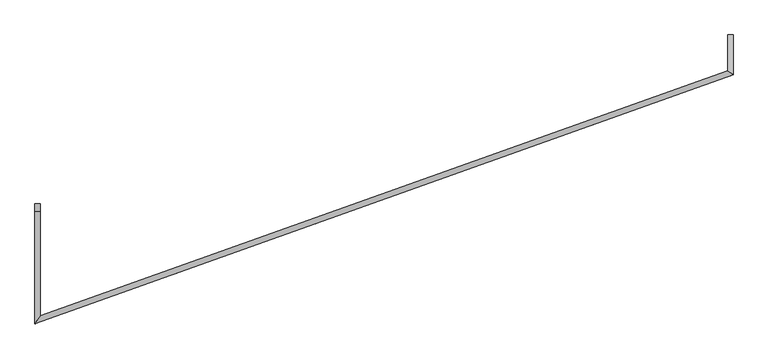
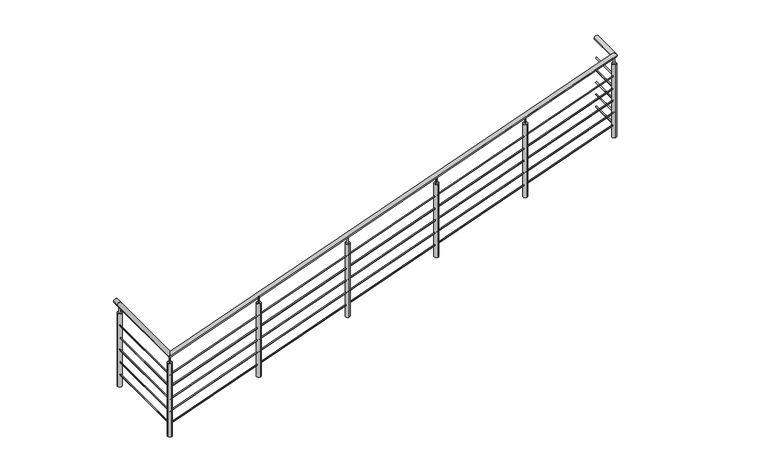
"""IFC4 building model written with IfcOpenShell, lengths in millimetres: railing geometry, Barandal general."""

from ifc_helpers import new_model, si_unit, point, frame, frame_2d, origin, place, context, project, spatial, circle_curve, ellipse_curve, trimmed, segment, composite_curve, outline, extrude, source, transform, mapped, element, save
from ifc_brep_helpers import plane_surface, cylinder_surface, advanced_brep


def railing_adf64244(model_context):
    return source(origin(), model_context, "Body", "SolidModel", [
        advanced_brep(
        [(42883.0275078, 24829.0112971, 13000.0), (42832.2275078, 24829.0112971, 13000.0), (42883.0275078, 23850.0761645, 13000.0), (42832.2275078, 23778.0442839, 13000.0), (49344.1059119, 26152.5044571, 13000.0), (49394.9059119, 26116.6780983, 13000.0), (49344.1059119, 26491.6980314, 13000.0), (49394.9059119, 26491.6980314, 13000.0)],
        [
            (0, 1, circle_curve(frame((42857.6275078, 24829.0112971, 13000.0), z_axis=(0.0, 1.0, 0.0), x_axis=(-1.0, 0.0, 0.0)), 25.4)),
            (1, 0, circle_curve(frame((42857.6275078, 24829.0112971, 13000.0), z_axis=(0.0, 1.0, 0.0), x_axis=(-1.0, 0.0, 0.0)), 25.4)),
            (0, 2),
            (2, 3, ellipse_curve(frame((42857.6275078, 23814.0602242, 13000.0), z_axis=(-0.8172138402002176, 0.5763345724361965, 0.0), x_axis=(0.5763345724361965, 0.8172138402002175, 0.0)), 44.071623, 25.4)),
            (3, 1),
            (3, 2, ellipse_curve(frame((42857.6275078, 23814.0602242, 13000.0), z_axis=(-0.8172138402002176, 0.5763345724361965, 0.0), x_axis=(0.5763345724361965, 0.8172138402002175, 0.0)), 44.071623, 25.4)),
            (2, 4),
            (4, 5, ellipse_curve(frame((49369.5059119, 26134.5912777, 13000.0), z_axis=(-0.5763345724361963, -0.8172138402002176, 0.0), x_axis=(-0.8172138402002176, 0.5763345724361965, 0.0)), 31.0812161, 25.4)),
            (5, 3),
            (5, 4, ellipse_curve(frame((49369.5059119, 26134.5912777, 13000.0), z_axis=(-0.5763345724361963, -0.8172138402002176, 0.0), x_axis=(-0.8172138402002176, 0.5763345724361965, 0.0)), 31.0812161, 25.4)),
            (6, 7, circle_curve(frame((49369.5059119, 26491.6980314, 13000.0), z_axis=(0.0, 1.0, 0.0), x_axis=(1.0, 0.0, 0.0)), 25.4)),
            (7, 6, circle_curve(frame((49369.5059119, 26491.6980314, 13000.0), z_axis=(0.0, 1.0, 0.0), x_axis=(1.0, 0.0, 0.0)), 25.4)),
            (4, 6),
            (7, 5),
        ],
        [
            plane_surface(frame((42857.6275078, 24829.0112971, 13000.0), z_axis=(0.0, 1.0, 0.0), x_axis=(0.0, 0.0, -1.0))),
            cylinder_surface(frame((42857.6275078, 24829.0112971, 13000.0), z_axis=(0.0, 1.0, 0.0), x_axis=(-1.0, 0.0, 0.0)), 25.4),
            cylinder_surface(frame((42857.6275078, 23814.0602242, 13000.0), z_axis=(-0.941977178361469, -0.3356769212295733, 0.0), x_axis=(0.3356769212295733, -0.941977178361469, 0.0)), 25.4),
            plane_surface(frame((49369.5059119, 26491.6980314, 13000.0), z_axis=(0.0, 1.0, 0.0), x_axis=(0.0, 0.0, 1.0))),
            cylinder_surface(frame((49369.5059119, 26134.5912777, 13000.0), z_axis=(0.0, -1.0, 0.0), x_axis=(1.0, 0.0, 0.0)), 25.4),
        ],
        [
            (0, [[1, 2]]),
            (1, [[-1, 3, 4, 5]]),
            (1, [[-2, -5, 6, -3]]),
            (2, [[-4, 7, 8, 9]]),
            (2, [[-6, -9, 10, -7]]),
            (3, [[11, 12]]),
            (4, [[-8, 13, -12, 14]]),
            (4, [[-10, -14, -11, -13]]),
        ],
    ),
        advanced_brep(
        [(42863.9775078, 24829.0112971, 12750.0), (42851.2775078, 24829.0112971, 12750.0), (42863.9775078, 23823.0642093, 12750.0), (42851.2775078, 23805.0562391, 12750.0), (49363.1559119, 26139.0695726, 12750.0), (49375.8559119, 26130.1129829, 12750.0), (49363.1559119, 26491.6980314, 12750.0), (49375.8559119, 26491.6980314, 12750.0)],
        [
            (0, 1, circle_curve(frame((42857.6275078, 24829.0112971, 12750.0), z_axis=(0.0, 1.0, 0.0), x_axis=(-1.0, 0.0, 0.0)), 6.35)),
            (1, 0, circle_curve(frame((42857.6275078, 24829.0112971, 12750.0), z_axis=(0.0, 1.0, 0.0), x_axis=(-1.0, 0.0, 0.0)), 6.35)),
            (0, 2),
            (2, 3, ellipse_curve(frame((42857.6275078, 23814.0602242, 12750.0), z_axis=(-0.8172138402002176, 0.5763345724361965, 0.0), x_axis=(0.5763345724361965, 0.8172138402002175, 0.0)), 11.0179058, 6.35)),
            (3, 1),
            (3, 2, ellipse_curve(frame((42857.6275078, 23814.0602242, 12750.0), z_axis=(-0.8172138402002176, 0.5763345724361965, 0.0), x_axis=(0.5763345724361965, 0.8172138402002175, 0.0)), 11.0179058, 6.35)),
            (2, 4),
            (4, 5, ellipse_curve(frame((49369.5059119, 26134.5912777, 12750.0), z_axis=(-0.5763345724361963, -0.8172138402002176, 0.0), x_axis=(-0.8172138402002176, 0.5763345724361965, 0.0)), 7.770304, 6.35)),
            (5, 3),
            (5, 4, ellipse_curve(frame((49369.5059119, 26134.5912777, 12750.0), z_axis=(-0.5763345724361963, -0.8172138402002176, 0.0), x_axis=(-0.8172138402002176, 0.5763345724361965, 0.0)), 7.770304, 6.35)),
            (6, 7, circle_curve(frame((49369.5059119, 26491.6980314, 12750.0), z_axis=(0.0, 1.0, 0.0), x_axis=(1.0, 0.0, 0.0)), 6.35)),
            (7, 6, circle_curve(frame((49369.5059119, 26491.6980314, 12750.0), z_axis=(0.0, 1.0, 0.0), x_axis=(1.0, 0.0, 0.0)), 6.35)),
            (4, 6),
            (7, 5),
        ],
        [
            plane_surface(frame((42857.6275078, 24829.0112971, 12750.0), z_axis=(0.0, 1.0, 0.0), x_axis=(0.0, 0.0, -1.0))),
            cylinder_surface(frame((42857.6275078, 24829.0112971, 12750.0), z_axis=(0.0, 1.0, 0.0), x_axis=(-1.0, 0.0, 0.0)), 6.35),
            cylinder_surface(frame((42857.6275078, 23814.0602242, 12750.0), z_axis=(-0.941977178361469, -0.3356769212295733, 0.0), x_axis=(0.3356769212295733, -0.941977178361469, 0.0)), 6.35),
            plane_surface(frame((49369.5059119, 26491.6980314, 12750.0), z_axis=(0.0, 1.0, 0.0), x_axis=(0.0, 0.0, 1.0))),
            cylinder_surface(frame((49369.5059119, 26134.5912777, 12750.0), z_axis=(0.0, -1.0, 0.0), x_axis=(1.0, 0.0, 0.0)), 6.35),
        ],
        [
            (0, [[1, 2]]),
            (1, [[-1, 3, 4, 5]]),
            (1, [[-2, -5, 6, -3]]),
            (2, [[-4, 7, 8, 9]]),
            (2, [[-6, -9, 10, -7]]),
            (3, [[11, 12]]),
            (4, [[-8, 13, -12, 14]]),
            (4, [[-10, -14, -11, -13]]),
        ],
    ),
        advanced_brep(
        [(42863.9775078, 24829.0112971, 12600.0), (42851.2775078, 24829.0112971, 12600.0), (42863.9775078, 23823.0642093, 12600.0), (42851.2775078, 23805.0562391, 12600.0), (49363.1559119, 26139.0695726, 12600.0), (49375.8559119, 26130.1129829, 12600.0), (49363.1559119, 26491.6980314, 12600.0), (49375.8559119, 26491.6980314, 12600.0)],
        [
            (0, 1, circle_curve(frame((42857.6275078, 24829.0112971, 12600.0), z_axis=(0.0, 1.0, 0.0), x_axis=(-1.0, 0.0, 0.0)), 6.35)),
            (1, 0, circle_curve(frame((42857.6275078, 24829.0112971, 12600.0), z_axis=(0.0, 1.0, 0.0), x_axis=(-1.0, 0.0, 0.0)), 6.35)),
            (0, 2),
            (2, 3, ellipse_curve(frame((42857.6275078, 23814.0602242, 12600.0), z_axis=(-0.8172138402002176, 0.5763345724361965, 0.0), x_axis=(0.5763345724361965, 0.8172138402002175, 0.0)), 11.0179058, 6.35)),
            (3, 1),
            (3, 2, ellipse_curve(frame((42857.6275078, 23814.0602242, 12600.0), z_axis=(-0.8172138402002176, 0.5763345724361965, 0.0), x_axis=(0.5763345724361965, 0.8172138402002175, 0.0)), 11.0179058, 6.35)),
            (2, 4),
            (4, 5, ellipse_curve(frame((49369.5059119, 26134.5912777, 12600.0), z_axis=(-0.5763345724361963, -0.8172138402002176, 0.0), x_axis=(-0.8172138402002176, 0.5763345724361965, 0.0)), 7.770304, 6.35)),
            (5, 3),
            (5, 4, ellipse_curve(frame((49369.5059119, 26134.5912777, 12600.0), z_axis=(-0.5763345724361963, -0.8172138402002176, 0.0), x_axis=(-0.8172138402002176, 0.5763345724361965, 0.0)), 7.770304, 6.35)),
            (6, 7, circle_curve(frame((49369.5059119, 26491.6980314, 12600.0), z_axis=(0.0, 1.0, 0.0), x_axis=(1.0, 0.0, 0.0)), 6.35)),
            (7, 6, circle_curve(frame((49369.5059119, 26491.6980314, 12600.0), z_axis=(0.0, 1.0, 0.0), x_axis=(1.0, 0.0, 0.0)), 6.35)),
            (4, 6),
            (7, 5),
        ],
        [
            plane_surface(frame((42857.6275078, 24829.0112971, 12600.0), z_axis=(0.0, 1.0, 0.0), x_axis=(0.0, 0.0, -1.0))),
            cylinder_surface(frame((42857.6275078, 24829.0112971, 12600.0), z_axis=(0.0, 1.0, 0.0), x_axis=(-1.0, 0.0, 0.0)), 6.35),
            cylinder_surface(frame((42857.6275078, 23814.0602242, 12600.0), z_axis=(-0.941977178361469, -0.3356769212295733, 0.0), x_axis=(0.3356769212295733, -0.941977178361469, 0.0)), 6.35),
            plane_surface(frame((49369.5059119, 26491.6980314, 12600.0), z_axis=(0.0, 1.0, 0.0), x_axis=(0.0, 0.0, 1.0))),
            cylinder_surface(frame((49369.5059119, 26134.5912777, 12600.0), z_axis=(0.0, -1.0, 0.0), x_axis=(1.0, 0.0, 0.0)), 6.35),
        ],
        [
            (0, [[1, 2]]),
            (1, [[-1, 3, 4, 5]]),
            (1, [[-2, -5, 6, -3]]),
            (2, [[-4, 7, 8, 9]]),
            (2, [[-6, -9, 10, -7]]),
            (3, [[11, 12]]),
            (4, [[-8, 13, -12, 14]]),
            (4, [[-10, -14, -11, -13]]),
        ],
    ),
        advanced_brep(
        [(42863.9775078, 24829.0112971, 12450.0), (42851.2775078, 24829.0112971, 12450.0), (42863.9775078, 23823.0642093, 12450.0), (42851.2775078, 23805.0562391, 12450.0), (49363.1559119, 26139.0695726, 12450.0), (49375.8559119, 26130.1129829, 12450.0), (49363.1559119, 26491.6980314, 12450.0), (49375.8559119, 26491.6980314, 12450.0)],
        [
            (0, 1, circle_curve(frame((42857.6275078, 24829.0112971, 12450.0), z_axis=(0.0, 1.0, 0.0), x_axis=(-1.0, 0.0, 0.0)), 6.35)),
            (1, 0, circle_curve(frame((42857.6275078, 24829.0112971, 12450.0), z_axis=(0.0, 1.0, 0.0), x_axis=(-1.0, 0.0, 0.0)), 6.35)),
            (0, 2),
            (2, 3, ellipse_curve(frame((42857.6275078, 23814.0602242, 12450.0), z_axis=(-0.8172138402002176, 0.5763345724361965, 0.0), x_axis=(0.5763345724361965, 0.8172138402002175, 0.0)), 11.0179058, 6.35)),
            (3, 1),
            (3, 2, ellipse_curve(frame((42857.6275078, 23814.0602242, 12450.0), z_axis=(-0.8172138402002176, 0.5763345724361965, 0.0), x_axis=(0.5763345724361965, 0.8172138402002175, 0.0)), 11.0179058, 6.35)),
            (2, 4),
            (4, 5, ellipse_curve(frame((49369.5059119, 26134.5912777, 12450.0), z_axis=(-0.5763345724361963, -0.8172138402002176, 0.0), x_axis=(-0.8172138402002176, 0.5763345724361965, 0.0)), 7.770304, 6.35)),
            (5, 3),
            (5, 4, ellipse_curve(frame((49369.5059119, 26134.5912777, 12450.0), z_axis=(-0.5763345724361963, -0.8172138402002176, 0.0), x_axis=(-0.8172138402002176, 0.5763345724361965, 0.0)), 7.770304, 6.35)),
            (6, 7, circle_curve(frame((49369.5059119, 26491.6980314, 12450.0), z_axis=(0.0, 1.0, 0.0), x_axis=(1.0, 0.0, 0.0)), 6.35)),
            (7, 6, circle_curve(frame((49369.5059119, 26491.6980314, 12450.0), z_axis=(0.0, 1.0, 0.0), x_axis=(1.0, 0.0, 0.0)), 6.35)),
            (4, 6),
            (7, 5),
        ],
        [
            plane_surface(frame((42857.6275078, 24829.0112971, 12450.0), z_axis=(0.0, 1.0, 0.0), x_axis=(0.0, 0.0, -1.0))),
            cylinder_surface(frame((42857.6275078, 24829.0112971, 12450.0), z_axis=(0.0, 1.0, 0.0), x_axis=(-1.0, 0.0, 0.0)), 6.35),
            cylinder_surface(frame((42857.6275078, 23814.0602242, 12450.0), z_axis=(-0.941977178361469, -0.3356769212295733, 0.0), x_axis=(0.3356769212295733, -0.941977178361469, 0.0)), 6.35),
            plane_surface(frame((49369.5059119, 26491.6980314, 12450.0), z_axis=(0.0, 1.0, 0.0), x_axis=(0.0, 0.0, 1.0))),
            cylinder_surface(frame((49369.5059119, 26134.5912777, 12450.0), z_axis=(0.0, -1.0, 0.0), x_axis=(1.0, 0.0, 0.0)), 6.35),
        ],
        [
            (0, [[1, 2]]),
            (1, [[-1, 3, 4, 5]]),
            (1, [[-2, -5, 6, -3]]),
            (2, [[-4, 7, 8, 9]]),
            (2, [[-6, -9, 10, -7]]),
            (3, [[11, 12]]),
            (4, [[-8, 13, -12, 14]]),
            (4, [[-10, -14, -11, -13]]),
        ],
    ),
        advanced_brep(
        [(42863.9775078, 24829.0112971, 12300.0), (42851.2775078, 24829.0112971, 12300.0), (42863.9775078, 23823.0642093, 12300.0), (42851.2775078, 23805.0562391, 12300.0), (49363.1559119, 26139.0695726, 12300.0), (49375.8559119, 26130.1129829, 12300.0), (49363.1559119, 26491.6980314, 12300.0), (49375.8559119, 26491.6980314, 12300.0)],
        [
            (0, 1, circle_curve(frame((42857.6275078, 24829.0112971, 12300.0), z_axis=(0.0, 1.0, 0.0), x_axis=(-1.0, 0.0, 0.0)), 6.35)),
            (1, 0, circle_curve(frame((42857.6275078, 24829.0112971, 12300.0), z_axis=(0.0, 1.0, 0.0), x_axis=(-1.0, 0.0, 0.0)), 6.35)),
            (0, 2),
            (2, 3, ellipse_curve(frame((42857.6275078, 23814.0602242, 12300.0), z_axis=(-0.8172138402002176, 0.5763345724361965, 0.0), x_axis=(0.5763345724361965, 0.8172138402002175, 0.0)), 11.0179058, 6.35)),
            (3, 1),
            (3, 2, ellipse_curve(frame((42857.6275078, 23814.0602242, 12300.0), z_axis=(-0.8172138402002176, 0.5763345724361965, 0.0), x_axis=(0.5763345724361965, 0.8172138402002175, 0.0)), 11.0179058, 6.35)),
            (2, 4),
            (4, 5, ellipse_curve(frame((49369.5059119, 26134.5912777, 12300.0), z_axis=(-0.5763345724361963, -0.8172138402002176, 0.0), x_axis=(-0.8172138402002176, 0.5763345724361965, 0.0)), 7.770304, 6.35)),
            (5, 3),
            (5, 4, ellipse_curve(frame((49369.5059119, 26134.5912777, 12300.0), z_axis=(-0.5763345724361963, -0.8172138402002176, 0.0), x_axis=(-0.8172138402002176, 0.5763345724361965, 0.0)), 7.770304, 6.35)),
            (6, 7, circle_curve(frame((49369.5059119, 26491.6980314, 12300.0), z_axis=(0.0, 1.0, 0.0), x_axis=(1.0, 0.0, 0.0)), 6.35)),
            (7, 6, circle_curve(frame((49369.5059119, 26491.6980314, 12300.0), z_axis=(0.0, 1.0, 0.0), x_axis=(1.0, 0.0, 0.0)), 6.35)),
            (4, 6),
            (7, 5),
        ],
        [
            plane_surface(frame((42857.6275078, 24829.0112971, 12300.0), z_axis=(0.0, 1.0, 0.0), x_axis=(0.0, 0.0, -1.0))),
            cylinder_surface(frame((42857.6275078, 24829.0112971, 12300.0), z_axis=(0.0, 1.0, 0.0), x_axis=(-1.0, 0.0, 0.0)), 6.35),
            cylinder_surface(frame((42857.6275078, 23814.0602242, 12300.0), z_axis=(-0.941977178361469, -0.3356769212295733, 0.0), x_axis=(0.3356769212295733, -0.941977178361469, 0.0)), 6.35),
            plane_surface(frame((49369.5059119, 26491.6980314, 12300.0), z_axis=(0.0, 1.0, 0.0), x_axis=(0.0, 0.0, 1.0))),
            cylinder_surface(frame((49369.5059119, 26134.5912777, 12300.0), z_axis=(0.0, -1.0, 0.0), x_axis=(1.0, 0.0, 0.0)), 6.35),
        ],
        [
            (0, [[1, 2]]),
            (1, [[-1, 3, 4, 5]]),
            (1, [[-2, -5, 6, -3]]),
            (2, [[-4, 7, 8, 9]]),
            (2, [[-6, -9, 10, -7]]),
            (3, [[11, 12]]),
            (4, [[-8, 13, -12, 14]]),
            (4, [[-10, -14, -11, -13]]),
        ],
    ),
        advanced_brep(
        [(42863.9775078, 24829.0112971, 12150.0), (42851.2775078, 24829.0112971, 12150.0), (42863.9775078, 23823.0642093, 12150.0), (42851.2775078, 23805.0562391, 12150.0), (49363.1559119, 26139.0695726, 12150.0), (49375.8559119, 26130.1129829, 12150.0), (49363.1559119, 26491.6980314, 12150.0), (49375.8559119, 26491.6980314, 12150.0)],
        [
            (0, 1, circle_curve(frame((42857.6275078, 24829.0112971, 12150.0), z_axis=(0.0, 1.0, 0.0), x_axis=(-1.0, 0.0, 0.0)), 6.35)),
            (1, 0, circle_curve(frame((42857.6275078, 24829.0112971, 12150.0), z_axis=(0.0, 1.0, 0.0), x_axis=(-1.0, 0.0, 0.0)), 6.35)),
            (0, 2),
            (2, 3, ellipse_curve(frame((42857.6275078, 23814.0602242, 12150.0), z_axis=(-0.8172138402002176, 0.5763345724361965, 0.0), x_axis=(0.5763345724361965, 0.8172138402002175, 0.0)), 11.0179058, 6.35)),
            (3, 1),
            (3, 2, ellipse_curve(frame((42857.6275078, 23814.0602242, 12150.0), z_axis=(-0.8172138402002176, 0.5763345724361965, 0.0), x_axis=(0.5763345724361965, 0.8172138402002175, 0.0)), 11.0179058, 6.35)),
            (2, 4),
            (4, 5, ellipse_curve(frame((49369.5059119, 26134.5912777, 12150.0), z_axis=(-0.5763345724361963, -0.8172138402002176, 0.0), x_axis=(-0.8172138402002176, 0.5763345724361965, 0.0)), 7.770304, 6.35)),
            (5, 3),
            (5, 4, ellipse_curve(frame((49369.5059119, 26134.5912777, 12150.0), z_axis=(-0.5763345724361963, -0.8172138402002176, 0.0), x_axis=(-0.8172138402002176, 0.5763345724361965, 0.0)), 7.770304, 6.35)),
            (6, 7, circle_curve(frame((49369.5059119, 26491.6980314, 12150.0), z_axis=(0.0, 1.0, 0.0), x_axis=(1.0, 0.0, 0.0)), 6.35)),
            (7, 6, circle_curve(frame((49369.5059119, 26491.6980314, 12150.0), z_axis=(0.0, 1.0, 0.0), x_axis=(1.0, 0.0, 0.0)), 6.35)),
            (4, 6),
            (7, 5),
        ],
        [
            plane_surface(frame((42857.6275078, 24829.0112971, 12150.0), z_axis=(0.0, 1.0, 0.0), x_axis=(0.0, 0.0, -1.0))),
            cylinder_surface(frame((42857.6275078, 24829.0112971, 12150.0), z_axis=(0.0, 1.0, 0.0), x_axis=(-1.0, 0.0, 0.0)), 6.35),
            cylinder_surface(frame((42857.6275078, 23814.0602242, 12150.0), z_axis=(-0.941977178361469, -0.3356769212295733, 0.0), x_axis=(0.3356769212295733, -0.941977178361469, 0.0)), 6.35),
            plane_surface(frame((49369.5059119, 26491.6980314, 12150.0), z_axis=(0.0, 1.0, 0.0), x_axis=(0.0, 0.0, 1.0))),
            cylinder_surface(frame((49369.5059119, 26134.5912777, 12150.0), z_axis=(0.0, -1.0, 0.0), x_axis=(1.0, 0.0, 0.0)), 6.35),
        ],
        [
            (0, [[1, 2]]),
            (1, [[-1, 3, 4, 5]]),
            (1, [[-2, -5, 6, -3]]),
            (2, [[-4, 7, 8, 9]]),
            (2, [[-6, -9, 10, -7]]),
            (3, [[11, 12]]),
            (4, [[-8, 13, -12, 14]]),
            (4, [[-10, -14, -11, -13]]),
        ],
    ),
        extrude(outline(composite_curve([segment(trimmed(circle_curve(frame_2d((49369.5059119, 26134.5912777)), 6.35), [point((49371.6374604, 26128.6097226))], [point((49367.3743635, 26140.5728328))], False, "CARTESIAN"), True, "CONTINUOUS"), segment(trimmed(circle_curve(frame_2d((49369.5059119, 26134.5912777)), 6.35), [point((49367.3743635, 26140.5728328))], [point((49371.6374604, 26128.6097226))], False, "CARTESIAN"), True, "CONTINUOUS")], self_intersect=False)), frame((0.0, 0.0, 12899.6), z_axis=(0.0, 0.0, 1.0), x_axis=(1.0, 0.0, 0.0)), (0.0, 0.0, 1.0), 75.0),
        extrude(outline(composite_curve([segment(trimmed(circle_curve(frame_2d((49369.5059119, 26134.5912777)), 25.4), [point((49378.0321057, 26110.6650574))], [point((49360.9797181, 26158.517498))], False, "CARTESIAN"), True, "CONTINUOUS"), segment(trimmed(circle_curve(frame_2d((49369.5059119, 26134.5912777)), 25.4), [point((49360.9797181, 26158.517498))], [point((49378.0321057, 26110.6650574))], False, "CARTESIAN"), True, "CONTINUOUS")], self_intersect=False)), frame((0.0, 0.0, 12000.0), z_axis=(0.0, 0.0, 1.0), x_axis=(1.0, 0.0, 0.0)), (0.0, 0.0, 1.0), 899.6),
        extrude(outline(composite_curve([segment(trimmed(circle_curve(frame_2d((48067.1302311, 25670.485067)), 6.35), [point((48069.2617796, 25664.5035119))], [point((48064.9986827, 25676.4666221))], False, "CARTESIAN"), True, "CONTINUOUS"), segment(trimmed(circle_curve(frame_2d((48067.1302311, 25670.485067)), 6.35), [point((48064.9986827, 25676.4666221))], [point((48069.2617796, 25664.5035119))], False, "CARTESIAN"), True, "CONTINUOUS")], self_intersect=False)), frame((0.0, 0.0, 12899.6), z_axis=(0.0, 0.0, 1.0), x_axis=(1.0, 0.0, 0.0)), (0.0, 0.0, 1.0), 75.0),
        extrude(outline(composite_curve([segment(trimmed(circle_curve(frame_2d((48067.1302311, 25670.485067)), 25.4), [point((48075.6564249, 25646.5588467))], [point((48058.6040373, 25694.4112873))], False, "CARTESIAN"), True, "CONTINUOUS"), segment(trimmed(circle_curve(frame_2d((48067.1302311, 25670.485067)), 25.4), [point((48058.6040373, 25694.4112873))], [point((48075.6564249, 25646.5588467))], False, "CARTESIAN"), True, "CONTINUOUS")], self_intersect=False)), frame((0.0, 0.0, 12000.0), z_axis=(0.0, 0.0, 1.0), x_axis=(1.0, 0.0, 0.0)), (0.0, 0.0, 1.0), 899.6),
        extrude(outline(composite_curve([segment(trimmed(circle_curve(frame_2d((46764.7545503, 25206.3788563)), 6.35), [point((46766.8860987, 25200.3973012))], [point((46762.6230018, 25212.3604114))], False, "CARTESIAN"), True, "CONTINUOUS"), segment(trimmed(circle_curve(frame_2d((46764.7545503, 25206.3788563)), 6.35), [point((46762.6230018, 25212.3604114))], [point((46766.8860987, 25200.3973012))], False, "CARTESIAN"), True, "CONTINUOUS")], self_intersect=False)), frame((0.0, 0.0, 12899.6), z_axis=(0.0, 0.0, 1.0), x_axis=(1.0, 0.0, 0.0)), (0.0, 0.0, 1.0), 75.0),
        extrude(outline(composite_curve([segment(trimmed(circle_curve(frame_2d((46764.7545503, 25206.3788563)), 25.4), [point((46773.2807441, 25182.452636))], [point((46756.2283565, 25230.3050766))], False, "CARTESIAN"), True, "CONTINUOUS"), segment(trimmed(circle_curve(frame_2d((46764.7545503, 25206.3788563)), 25.4), [point((46756.2283565, 25230.3050766))], [point((46773.2807441, 25182.452636))], False, "CARTESIAN"), True, "CONTINUOUS")], self_intersect=False)), frame((0.0, 0.0, 12000.0), z_axis=(0.0, 0.0, 1.0), x_axis=(1.0, 0.0, 0.0)), (0.0, 0.0, 1.0), 899.6),
        extrude(outline(composite_curve([segment(trimmed(circle_curve(frame_2d((45462.3788695, 24742.2726456)), 6.35), [point((45464.5104179, 24736.2910905))], [point((45460.247321, 24748.2542007))], False, "CARTESIAN"), True, "CONTINUOUS"), segment(trimmed(circle_curve(frame_2d((45462.3788695, 24742.2726456)), 6.35), [point((45460.247321, 24748.2542007))], [point((45464.5104179, 24736.2910905))], False, "CARTESIAN"), True, "CONTINUOUS")], self_intersect=False)), frame((0.0, 0.0, 12899.6), z_axis=(0.0, 0.0, 1.0), x_axis=(1.0, 0.0, 0.0)), (0.0, 0.0, 1.0), 75.0),
        extrude(outline(composite_curve([segment(trimmed(circle_curve(frame_2d((45462.3788695, 24742.2726456)), 25.4), [point((45470.9050633, 24718.3464253))], [point((45453.8526757, 24766.1988659))], False, "CARTESIAN"), True, "CONTINUOUS"), segment(trimmed(circle_curve(frame_2d((45462.3788695, 24742.2726456)), 25.4), [point((45453.8526757, 24766.1988659))], [point((45470.9050633, 24718.3464253))], False, "CARTESIAN"), True, "CONTINUOUS")], self_intersect=False)), frame((0.0, 0.0, 12000.0), z_axis=(0.0, 0.0, 1.0), x_axis=(1.0, 0.0, 0.0)), (0.0, 0.0, 1.0), 899.6),
        extrude(outline(composite_curve([segment(trimmed(circle_curve(frame_2d((44160.0031887, 24278.1664349)), 6.35), [point((44162.1347371, 24272.1848798))], [point((44157.8716402, 24284.14799))], False, "CARTESIAN"), True, "CONTINUOUS"), segment(trimmed(circle_curve(frame_2d((44160.0031887, 24278.1664349)), 6.35), [point((44157.8716402, 24284.14799))], [point((44162.1347371, 24272.1848798))], False, "CARTESIAN"), True, "CONTINUOUS")], self_intersect=False)), frame((0.0, 0.0, 12899.6), z_axis=(0.0, 0.0, 1.0), x_axis=(1.0, 0.0, 0.0)), (0.0, 0.0, 1.0), 75.0),
        extrude(outline(composite_curve([segment(trimmed(circle_curve(frame_2d((44160.0031887, 24278.1664349)), 25.4), [point((44168.5293825, 24254.2402146))], [point((44151.4769949, 24302.0926552))], False, "CARTESIAN"), True, "CONTINUOUS"), segment(trimmed(circle_curve(frame_2d((44160.0031887, 24278.1664349)), 25.4), [point((44151.4769949, 24302.0926552))], [point((44168.5293825, 24254.2402146))], False, "CARTESIAN"), True, "CONTINUOUS")], self_intersect=False)), frame((0.0, 0.0, 12000.0), z_axis=(0.0, 0.0, 1.0), x_axis=(1.0, 0.0, 0.0)), (0.0, 0.0, 1.0), 899.6),
        extrude(outline(composite_curve([segment(trimmed(circle_curve(frame_2d((42857.6275078, 23814.0602242)), 6.35), [point((42859.7590563, 23808.0786691))], [point((42855.4959594, 23820.0417793))], False, "CARTESIAN"), True, "CONTINUOUS"), segment(trimmed(circle_curve(frame_2d((42857.6275078, 23814.0602242)), 6.35), [point((42855.4959594, 23820.0417793))], [point((42859.7590563, 23808.0786691))], False, "CARTESIAN"), True, "CONTINUOUS")], self_intersect=False)), frame((0.0, 0.0, 12899.6), z_axis=(0.0, 0.0, 1.0), x_axis=(1.0, 0.0, 0.0)), (0.0, 0.0, 1.0), 75.0),
        extrude(outline(composite_curve([segment(trimmed(circle_curve(frame_2d((42857.6275078, 23814.0602242)), 25.4), [point((42866.1537016, 23790.1340039))], [point((42849.101314, 23837.9864445))], False, "CARTESIAN"), True, "CONTINUOUS"), segment(trimmed(circle_curve(frame_2d((42857.6275078, 23814.0602242)), 25.4), [point((42849.101314, 23837.9864445))], [point((42866.1537016, 23790.1340039))], False, "CARTESIAN"), True, "CONTINUOUS")], self_intersect=False)), frame((0.0, 0.0, 12000.0), z_axis=(0.0, 0.0, 1.0), x_axis=(1.0, 0.0, 0.0)), (0.0, 0.0, 1.0), 899.6),
        extrude(outline(composite_curve([segment(trimmed(circle_curve(frame_2d((42857.6275078, 23814.0602242)), 6.35), [point((42851.2775078, 23814.0602242))], [point((42863.9775078, 23814.0602242))], False, "CARTESIAN"), True, "CONTINUOUS"), segment(trimmed(circle_curve(frame_2d((42857.6275078, 23814.0602242)), 6.35), [point((42863.9775078, 23814.0602242))], [point((42851.2775078, 23814.0602242))], False, "CARTESIAN"), True, "CONTINUOUS")], self_intersect=False)), frame((0.0, 0.0, 12899.6), z_axis=(0.0, 0.0, 1.0), x_axis=(1.0, 0.0, 0.0)), (0.0, 0.0, 1.0), 75.0),
        extrude(outline(composite_curve([segment(trimmed(circle_curve(frame_2d((42857.6275078, 23814.0602242)), 25.4), [point((42832.2275078, 23814.0602242))], [point((42883.0275078, 23814.0602242))], False, "CARTESIAN"), True, "CONTINUOUS"), segment(trimmed(circle_curve(frame_2d((42857.6275078, 23814.0602242)), 25.4), [point((42883.0275078, 23814.0602242))], [point((42832.2275078, 23814.0602242))], False, "CARTESIAN"), True, "CONTINUOUS")], self_intersect=False)), frame((0.0, 0.0, 12000.0), z_axis=(0.0, 0.0, 1.0), x_axis=(1.0, 0.0, 0.0)), (0.0, 0.0, 1.0), 899.6),
        extrude(outline(composite_curve([segment(trimmed(circle_curve(frame_2d((13000.0, 42857.6275078)), 25.4), [point((13000.0, 42832.2275078))], [point((13000.0, 42883.0275078))], False, "CARTESIAN"), True, "CONTINUOUS"), segment(trimmed(circle_curve(frame_2d((13000.0, 42857.6275078)), 25.4), [point((13000.0, 42883.0275078))], [point((13000.0, 42832.2275078))], False, "CARTESIAN"), True, "CONTINUOUS")], self_intersect=False)), frame((0.0, 24829.0112971, 0.0), z_axis=(0.0, 1.0, 0.0), x_axis=(0.0, 0.0, 1.0)), (0.0, 0.0, 1.0), 75.0),
        extrude(outline(composite_curve([segment(trimmed(circle_curve(frame_2d((42857.6275078, 24829.0112971)), 6.35), [point((42851.2775078, 24829.0112971))], [point((42863.9775078, 24829.0112971))], False, "CARTESIAN"), True, "CONTINUOUS"), segment(trimmed(circle_curve(frame_2d((42857.6275078, 24829.0112971)), 6.35), [point((42863.9775078, 24829.0112971))], [point((42851.2775078, 24829.0112971))], False, "CARTESIAN"), True, "CONTINUOUS")], self_intersect=False)), frame((0.0, 0.0, 12899.6), z_axis=(0.0, 0.0, 1.0), x_axis=(1.0, 0.0, 0.0)), (0.0, 0.0, 1.0), 75.0),
        extrude(outline(composite_curve([segment(trimmed(circle_curve(frame_2d((42857.6275078, 24829.0112971)), 25.4), [point((42832.2275078, 24829.0112971))], [point((42883.0275078, 24829.0112971))], False, "CARTESIAN"), True, "CONTINUOUS"), segment(trimmed(circle_curve(frame_2d((42857.6275078, 24829.0112971)), 25.4), [point((42883.0275078, 24829.0112971))], [point((42832.2275078, 24829.0112971))], False, "CARTESIAN"), True, "CONTINUOUS")], self_intersect=False)), frame((0.0, 0.0, 12000.0), z_axis=(0.0, 0.0, 1.0), x_axis=(1.0, 0.0, 0.0)), (0.0, 0.0, 1.0), 899.6),
    ])


if __name__ == "__main__":
    model = new_model("IFC4")
    model_context = context("Model", 3, world=origin())
    ifc_project = project(units=[si_unit("LENGTHUNIT", "METRE", prefix="MILLI")], contexts=[model_context])
    site = spatial("IfcSite", under=ifc_project)
    building = spatial("IfcBuilding", under=site)
    placement = place(None, origin())
    railing_shape = railing_adf64244(model_context)
    element("IfcRailing", 1, ObjectType="Barandal general", at=placement, inside=building, context=model_context, shape_type="MappedRepresentation", body=[
        mapped(railing_shape, transform((0.0, 0.0, 0.0), x_axis=(1.0, 0.0, 0.0), y_axis=(0.0, 1.0, 0.0), z_axis=(0.0, 0.0, 1.0))),
    ])
    save(model, "model.ifc")
